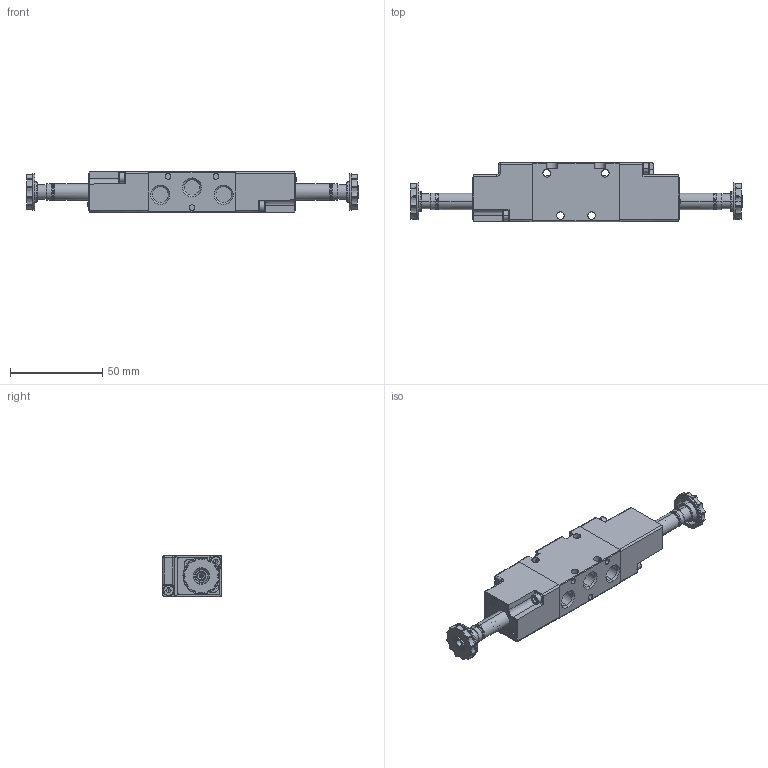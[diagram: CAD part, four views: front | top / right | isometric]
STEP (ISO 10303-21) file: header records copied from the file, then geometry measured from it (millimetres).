
FILE_DESCRIPTION (( 'STEP AP214' ), '1' );
FILE_NAME ('01VS150002A.STEP', '2012-11-28T13:44:14', ( '' ), ( '' ), 'SwSTEP 2.0', 'SolidWorks 2012', '' );
FILE_SCHEMA (( 'AUTOMOTIVE_DESIGN' ));
Length unit declared in the file: millimetre
Products named in the file (1): 01VS150002A
Bounding box: 180.4 x 32.13 x 22 mm (x, y, z)
Volume: 71341.9 mm3; surface area: 28492.9 mm2
Topology: 15 solids, 48 shells, 2424 faces, 5760 edges, 3356 vertices
Faces by surface type: plane 553, bspline 520, cylinder 515, torus 414, cone 274, sphere 148
Entity records: 131701 total; most frequent: CARTESIAN_POINT 54105, ORIENTED_EDGE 11228, DIRECTION 10374, EDGE_CURVE 5614, AXIS2_PLACEMENT_3D 4407, VERTEX_POINT 3350, EDGE_LOOP 2534, CIRCLE 2502
